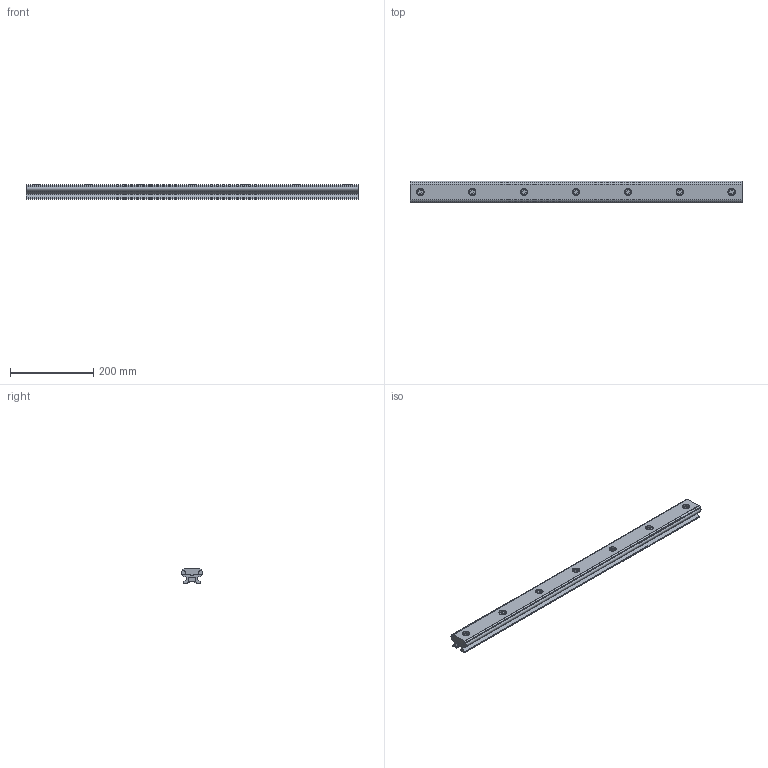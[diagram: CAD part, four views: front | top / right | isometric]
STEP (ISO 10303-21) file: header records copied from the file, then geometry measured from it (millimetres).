
FILE_DESCRIPTION(/* description */ ('Unknown'),/* implementation_level */ '2;1');
FILE_NAME(/* name */ 'HLFS52_800_Lang_mit_Bohrungen',/* time_stamp */ '2022-01-26T16:40:58+01:00',/* author */ ('Unknown'),/* organization */ ('Unknown'),/* preprocessor_version */ 'ST-DEVELOPER v16.7',/* originating_system */ 'Solid Edge',/* authorisation */ 'Unknown');
FILE_SCHEMA (('AUTOMOTIVE_DESIGN {1 0 10303 214 3 1 1}'));
Length unit declared in the file: millimetre
Products named in the file (6): HLFS52_800_Lang_mit_Bohrungen; Profil_oben-800_Lang-mit_Bohrungen_20220122; Welle_Dm_10-800_lang; din_7984_m_10x20_20220121; Profil_unten-800_Lang_20220122; DIN_557_Vierkantmutter_M10_20220121
Assembly tree (17 placements, depth 2):
  HLFS52_800_Lang_mit_Bohrungen
    Profil_oben-800_Lang-mit_Bohrungen_20220122
    Welle_Dm_10-800_lang  x2
    din_7984_m_10x20_20220121  x7
    Profil_unten-800_Lang_20220122
    DIN_557_Vierkantmutter_M10_20220121  x6
Bounding box: 800 x 52 x 34.3 mm (x, y, z)
Volume: 935490.6 mm3; surface area: 309514.6 mm2
Topology: 17 solids, 17 shells, 331 faces, 808 edges, 532 vertices
Faces by surface type: plane 189, cylinder 121, cone 14, torus 7
Full cylindrical faces by diameter (mm): 8.376 x12, 10 x16, 11 x7, 16 x7, 18 x7
Entity records: 6196 total; most frequent: CARTESIAN_POINT 1220, DIRECTION 988, ORIENTED_EDGE 970, EDGE_CURVE 485, AXIS2_PLACEMENT_3D 355, VERTEX_POINT 335, LINE 278, VECTOR 278
